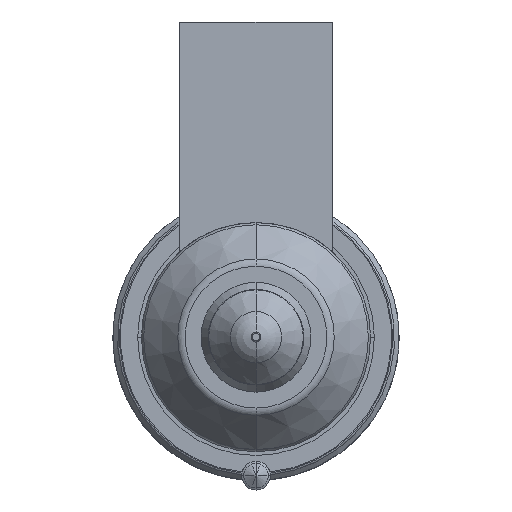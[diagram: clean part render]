
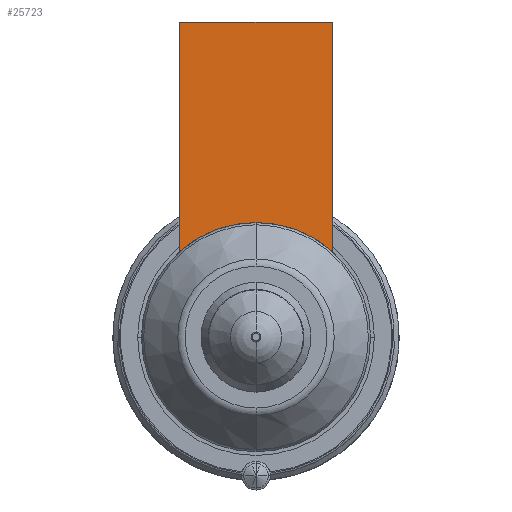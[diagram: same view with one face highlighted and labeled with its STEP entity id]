
A CAD part, front view. The second image highlights one B-rep face of the part: STEP entity #25723.
In plain terms, the highlighted planar face has unit normal (0, -1, 0).
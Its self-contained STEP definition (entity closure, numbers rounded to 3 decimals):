
#24805=DIRECTION('',(0.,0.,-1.));
#24806=VECTOR('',#24805,24.056);
#24807=CARTESIAN_POINT('',(-8.,-56.,33.));
#24808=LINE('',#24807,#24806);
#24845=DIRECTION('',(1.,0.,0.));
#24846=VECTOR('',#24845,16.);
#24847=CARTESIAN_POINT('',(-8.,-56.,33.));
#24848=LINE('',#24847,#24846);
#24852=CARTESIAN_POINT('',(0.,-56.,0.));
#24853=DIRECTION('',(0.,-1.,0.));
#24854=DIRECTION('',(0.667,0.,0.745));
#24855=AXIS2_PLACEMENT_3D('',#24852,#24853,#24854);
#24860=CARTESIAN_POINT('',(0.,-56.,0.));
#24861=DIRECTION('',(0.,-1.,0.));
#24862=DIRECTION('',(0.,0.,1.));
#24863=AXIS2_PLACEMENT_3D('',#24860,#24861,#24862);
#24896=DIRECTION('',(0.,0.,-1.));
#24897=VECTOR('',#24896,24.056);
#24898=CARTESIAN_POINT('',(8.,-56.,33.));
#24899=LINE('',#24898,#24897);
#25559=CARTESIAN_POINT('',(-8.,-56.,33.));
#25560=VERTEX_POINT('',#25559);
#25565=CARTESIAN_POINT('',(8.,-56.,33.));
#25566=VERTEX_POINT('',#25565);
#25569=CARTESIAN_POINT('',(-8.,-56.,8.944));
#25570=VERTEX_POINT('',#25569);
#25573=CARTESIAN_POINT('',(8.,-56.,8.944));
#25574=VERTEX_POINT('',#25573);
#25642=CARTESIAN_POINT('',(0.,-56.,12.));
#25643=VERTEX_POINT('',#25642);
#25708=CARTESIAN_POINT('',(-8.,-56.,33.));
#25709=DIRECTION('',(0.,-1.,0.));
#25710=DIRECTION('',(0.,0.,-1.));
#25711=AXIS2_PLACEMENT_3D('',#25708,#25709,#25710);
#25712=PLANE('',#25711);
#25713=ORIENTED_EDGE('',*,*,#25656,.F.);
#25715=ORIENTED_EDGE('',*,*,#25714,.T.);
#25717=ORIENTED_EDGE('',*,*,#25716,.T.);
#25719=ORIENTED_EDGE('',*,*,#25718,.T.);
#25720=ORIENTED_EDGE('',*,*,#25688,.T.);
#25721=EDGE_LOOP('',(#25713,#25715,#25717,#25719,#25720));
#25722=FACE_OUTER_BOUND('',#25721,.F.);
#25723=ADVANCED_FACE('',(#25722),#25712,.T.);
#24856=CIRCLE('',#24855,12.);
#24864=CIRCLE('',#24863,12.);
#25656=EDGE_CURVE('',#25560,#25570,#24808,.T.);
#25688=EDGE_CURVE('',#25643,#25570,#24864,.T.);
#25714=EDGE_CURVE('',#25560,#25566,#24848,.T.);
#25716=EDGE_CURVE('',#25566,#25574,#24899,.T.);
#25718=EDGE_CURVE('',#25574,#25643,#24856,.T.);
